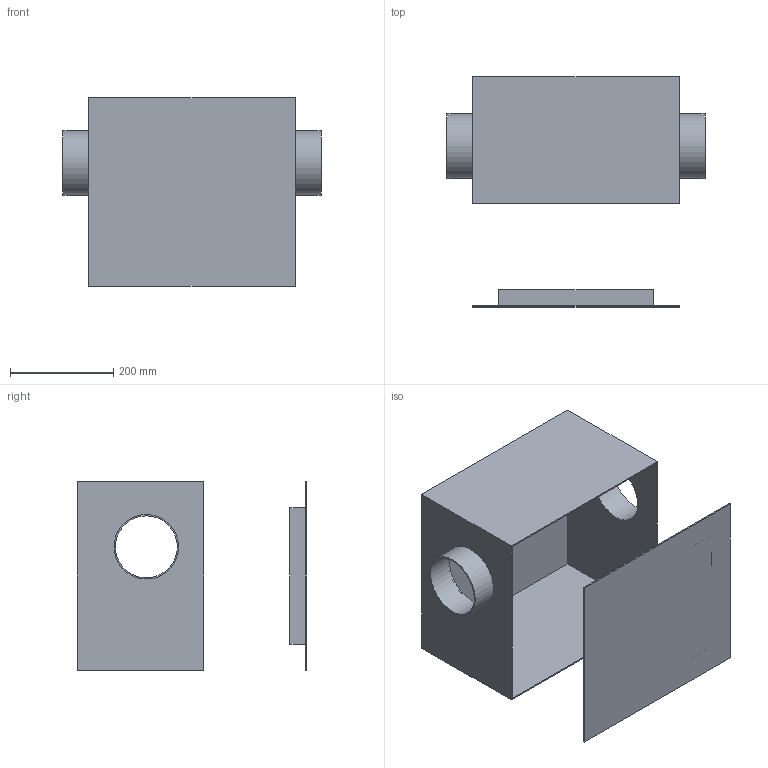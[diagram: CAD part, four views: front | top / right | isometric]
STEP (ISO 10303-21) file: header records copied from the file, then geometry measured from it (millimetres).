
FILE_DESCRIPTION(/* description */ (''),/* implementation_level */ '2;1');
FILE_NAME(/* name */ 'Z:\Output\SB_125_A-09506-001.stp',/* time_stamp */ '2020-12-15T15:45:37+01:00',/* author */ ('engineering1'),/* organization */ (''),/* preprocessor_version */ 'ST-DEVELOPER v17.2',/* originating_system */ 'Autodesk Inventor 2019',/* authorisation */ '');
FILE_SCHEMA (('AUTOMOTIVE_DESIGN { 1 0 10303 214 3 1 1 }'));
Length unit declared in the file: millimetre
Products named in the file (1): SB-1
Bounding box: 500 x 445 x 365 mm (x, y, z)
Volume: 2022704.3 mm3; surface area: 1428773.4 mm2
Topology: 2 solids, 2 shells, 33 faces, 72 edges, 48 vertices
Faces by surface type: plane 29, cylinder 4
Full cylindrical faces by diameter (mm): 120 x2, 125 x2
Entity records: 942 total; most frequent: CARTESIAN_POINT 154, DIRECTION 148, ORIENTED_EDGE 144, EDGE_CURVE 72, LINE 64, VECTOR 64, VERTEX_POINT 48, EDGE_LOOP 42
